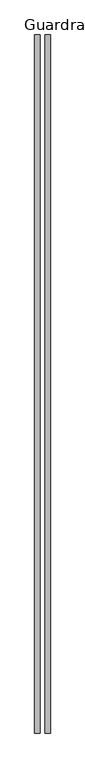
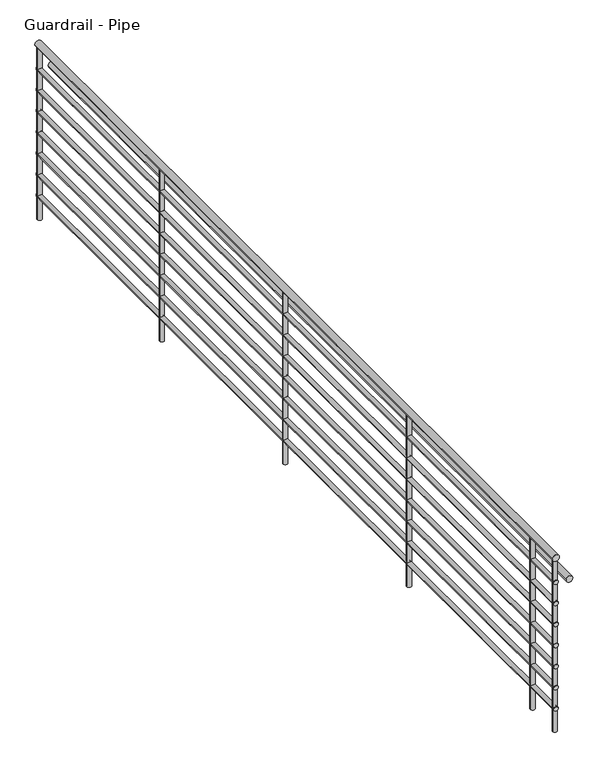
"""IFC4 building model written with IfcOpenShell, lengths in millimetres: railing geometry, Guardrail - Pipe."""

from ifc_helpers import new_model, si_unit, point, frame, frame_2d, origin, origin_with_axes, place, context, project, spatial, circle_curve, trimmed, segment, composite_curve, outline, extrude, source, transform, mapped, element, save


def guardrail_pipe_bb2e5a77(model_context):
    return source(origin(), model_context, "Body", "SweptSolid", [
        extrude(outline(composite_curve([segment(trimmed(circle_curve(frame_2d((1047.75, -43916.202824)), 19.05), [point((1047.75, -43897.152824))], [point((1047.75, -43935.252824))], False, "CARTESIAN"), True, "CONTINUOUS"), segment(trimmed(circle_curve(frame_2d((1047.75, -43916.202824)), 19.05), [point((1047.75, -43935.252824))], [point((1047.75, -43897.152824))], False, "CARTESIAN"), True, "CONTINUOUS")], self_intersect=False)), frame((0.0, 13117.48529, 0.0), z_axis=(0.0, 1.0, 0.0), x_axis=(0.0, 0.0, 1.0)), (0.0, 0.0, 1.0), 5108.575),
        extrude(outline(composite_curve([segment(trimmed(circle_curve(frame_2d((901.7, -43916.202824)), 12.7), [point((901.7, -43903.502824))], [point((901.7, -43928.902824))], False, "CARTESIAN"), True, "CONTINUOUS"), segment(trimmed(circle_curve(frame_2d((901.7, -43916.202824)), 12.7), [point((901.7, -43928.902824))], [point((901.7, -43903.502824))], False, "CARTESIAN"), True, "CONTINUOUS")], self_intersect=False)), frame((0.0, 13117.48529, 0.0), z_axis=(0.0, 1.0, 0.0), x_axis=(0.0, 0.0, 1.0)), (0.0, 0.0, 1.0), 5108.575),
        extrude(outline(composite_curve([segment(trimmed(circle_curve(frame_2d((895.35, -43840.002824)), 19.05), [point((895.35, -43820.952824))], [point((895.35, -43859.052824))], False, "CARTESIAN"), True, "CONTINUOUS"), segment(trimmed(circle_curve(frame_2d((895.35, -43840.002824)), 19.05), [point((895.35, -43859.052824))], [point((895.35, -43820.952824))], False, "CARTESIAN"), True, "CONTINUOUS")], self_intersect=False)), frame((0.0, 13117.48529, 0.0), z_axis=(0.0, 1.0, 0.0), x_axis=(0.0, 0.0, 1.0)), (0.0, 0.0, 1.0), 5108.575),
        extrude(outline(composite_curve([segment(trimmed(circle_curve(frame_2d((774.7, -43916.202824)), 12.7), [point((774.7, -43903.502824))], [point((774.7, -43928.902824))], False, "CARTESIAN"), True, "CONTINUOUS"), segment(trimmed(circle_curve(frame_2d((774.7, -43916.202824)), 12.7), [point((774.7, -43928.902824))], [point((774.7, -43903.502824))], False, "CARTESIAN"), True, "CONTINUOUS")], self_intersect=False)), frame((0.0, 13117.48529, 0.0), z_axis=(0.0, 1.0, 0.0), x_axis=(0.0, 0.0, 1.0)), (0.0, 0.0, 1.0), 5108.575),
        extrude(outline(composite_curve([segment(trimmed(circle_curve(frame_2d((647.7, -43916.202824)), 12.7), [point((647.7, -43903.502824))], [point((647.7, -43928.902824))], False, "CARTESIAN"), True, "CONTINUOUS"), segment(trimmed(circle_curve(frame_2d((647.7, -43916.202824)), 12.7), [point((647.7, -43928.902824))], [point((647.7, -43903.502824))], False, "CARTESIAN"), True, "CONTINUOUS")], self_intersect=False)), frame((0.0, 13117.48529, 0.0), z_axis=(0.0, 1.0, 0.0), x_axis=(0.0, 0.0, 1.0)), (0.0, 0.0, 1.0), 5108.575),
        extrude(outline(composite_curve([segment(trimmed(circle_curve(frame_2d((520.7, -43916.202824)), 12.7), [point((520.7, -43903.502824))], [point((520.7, -43928.902824))], False, "CARTESIAN"), True, "CONTINUOUS"), segment(trimmed(circle_curve(frame_2d((520.7, -43916.202824)), 12.7), [point((520.7, -43928.902824))], [point((520.7, -43903.502824))], False, "CARTESIAN"), True, "CONTINUOUS")], self_intersect=False)), frame((0.0, 13117.48529, 0.0), z_axis=(0.0, 1.0, 0.0), x_axis=(0.0, 0.0, 1.0)), (0.0, 0.0, 1.0), 5108.575),
        extrude(outline(composite_curve([segment(trimmed(circle_curve(frame_2d((393.7, -43916.202824)), 12.7), [point((393.7, -43903.502824))], [point((393.7, -43928.902824))], False, "CARTESIAN"), True, "CONTINUOUS"), segment(trimmed(circle_curve(frame_2d((393.7, -43916.202824)), 12.7), [point((393.7, -43928.902824))], [point((393.7, -43903.502824))], False, "CARTESIAN"), True, "CONTINUOUS")], self_intersect=False)), frame((0.0, 13117.48529, 0.0), z_axis=(0.0, 1.0, 0.0), x_axis=(0.0, 0.0, 1.0)), (0.0, 0.0, 1.0), 5108.575),
        extrude(outline(composite_curve([segment(trimmed(circle_curve(frame_2d((266.7, -43916.202824)), 12.7), [point((266.7, -43903.502824))], [point((266.7, -43928.902824))], False, "CARTESIAN"), True, "CONTINUOUS"), segment(trimmed(circle_curve(frame_2d((266.7, -43916.202824)), 12.7), [point((266.7, -43928.902824))], [point((266.7, -43903.502824))], False, "CARTESIAN"), True, "CONTINUOUS")], self_intersect=False)), frame((0.0, 13117.48529, 0.0), z_axis=(0.0, 1.0, 0.0), x_axis=(0.0, 0.0, 1.0)), (0.0, 0.0, 1.0), 5108.575),
        extrude(outline(composite_curve([segment(trimmed(circle_curve(frame_2d((139.7, -43916.202824)), 12.7), [point((139.7, -43903.502824))], [point((139.7, -43928.902824))], False, "CARTESIAN"), True, "CONTINUOUS"), segment(trimmed(circle_curve(frame_2d((139.7, -43916.202824)), 12.7), [point((139.7, -43928.902824))], [point((139.7, -43903.502824))], False, "CARTESIAN"), True, "CONTINUOUS")], self_intersect=False)), frame((0.0, 13117.48529, 0.0), z_axis=(0.0, 1.0, 0.0), x_axis=(0.0, 0.0, 1.0)), (0.0, 0.0, 1.0), 5108.575),
        extrude(outline(composite_curve([segment(trimmed(circle_curve(frame_2d((-43916.202824, 13349.26029)), 12.7), [point((-43903.502824, 13349.26029))], [point((-43928.902824, 13349.26029))], False, "CARTESIAN"), True, "CONTINUOUS"), segment(trimmed(circle_curve(frame_2d((-43916.202824, 13349.26029)), 12.7), [point((-43928.902824, 13349.26029))], [point((-43903.502824, 13349.26029))], False, "CARTESIAN"), True, "CONTINUOUS")], self_intersect=False)), origin_with_axes(), (0.0, 0.0, 1.0), 1028.7),
        extrude(outline(composite_curve([segment(trimmed(circle_curve(frame_2d((-43916.202824, 14568.46029)), 12.7), [point((-43903.502824, 14568.46029))], [point((-43928.902824, 14568.46029))], False, "CARTESIAN"), True, "CONTINUOUS"), segment(trimmed(circle_curve(frame_2d((-43916.202824, 14568.46029)), 12.7), [point((-43928.902824, 14568.46029))], [point((-43903.502824, 14568.46029))], False, "CARTESIAN"), True, "CONTINUOUS")], self_intersect=False)), origin_with_axes(), (0.0, 0.0, 1.0), 1028.7),
        extrude(outline(composite_curve([segment(trimmed(circle_curve(frame_2d((-43916.202824, 15787.66029)), 12.7), [point((-43903.502824, 15787.66029))], [point((-43928.902824, 15787.66029))], False, "CARTESIAN"), True, "CONTINUOUS"), segment(trimmed(circle_curve(frame_2d((-43916.202824, 15787.66029)), 12.7), [point((-43928.902824, 15787.66029))], [point((-43903.502824, 15787.66029))], False, "CARTESIAN"), True, "CONTINUOUS")], self_intersect=False)), origin_with_axes(), (0.0, 0.0, 1.0), 1028.7),
        extrude(outline(composite_curve([segment(trimmed(circle_curve(frame_2d((-43916.202824, 17006.86029)), 12.7), [point((-43903.502824, 17006.86029))], [point((-43928.902824, 17006.86029))], False, "CARTESIAN"), True, "CONTINUOUS"), segment(trimmed(circle_curve(frame_2d((-43916.202824, 17006.86029)), 12.7), [point((-43928.902824, 17006.86029))], [point((-43903.502824, 17006.86029))], False, "CARTESIAN"), True, "CONTINUOUS")], self_intersect=False)), origin_with_axes(), (0.0, 0.0, 1.0), 1028.7),
        extrude(outline(composite_curve([segment(trimmed(circle_curve(frame_2d((-43916.202824, 13130.18529)), 12.7), [point((-43903.502824, 13130.18529))], [point((-43928.902824, 13130.18529))], False, "CARTESIAN"), True, "CONTINUOUS"), segment(trimmed(circle_curve(frame_2d((-43916.202824, 13130.18529)), 12.7), [point((-43928.902824, 13130.18529))], [point((-43903.502824, 13130.18529))], False, "CARTESIAN"), True, "CONTINUOUS")], self_intersect=False)), origin_with_axes(), (0.0, 0.0, 1.0), 1028.7),
        extrude(outline(composite_curve([segment(trimmed(circle_curve(frame_2d((-43916.202824, 18213.36029)), 12.7), [point((-43903.502824, 18213.36029))], [point((-43928.902824, 18213.36029))], False, "CARTESIAN"), True, "CONTINUOUS"), segment(trimmed(circle_curve(frame_2d((-43916.202824, 18213.36029)), 12.7), [point((-43928.902824, 18213.36029))], [point((-43903.502824, 18213.36029))], False, "CARTESIAN"), True, "CONTINUOUS")], self_intersect=False)), origin_with_axes(), (0.0, 0.0, 1.0), 1028.7),
    ])


if __name__ == "__main__":
    model = new_model("IFC4")
    model_context = context("Model", 3, world=origin())
    ifc_project = project(units=[si_unit("LENGTHUNIT", "METRE", prefix="MILLI")], contexts=[model_context])
    site = spatial("IfcSite", under=ifc_project)
    building = spatial("IfcBuilding", under=site)
    placement = place(None, origin())
    guardrail_pipe_shape = guardrail_pipe_bb2e5a77(model_context)
    element("IfcRailing", 1, ObjectType="Guardrail - Pipe", at=placement, inside=building, context=model_context, shape_type="MappedRepresentation", body=[
        mapped(guardrail_pipe_shape, transform((0.0, 0.0, 0.0), x_axis=(1.0, 0.0, 0.0), y_axis=(0.0, 1.0, 0.0), z_axis=(0.0, 0.0, 1.0))),
    ])
    save(model, "model.ifc")
